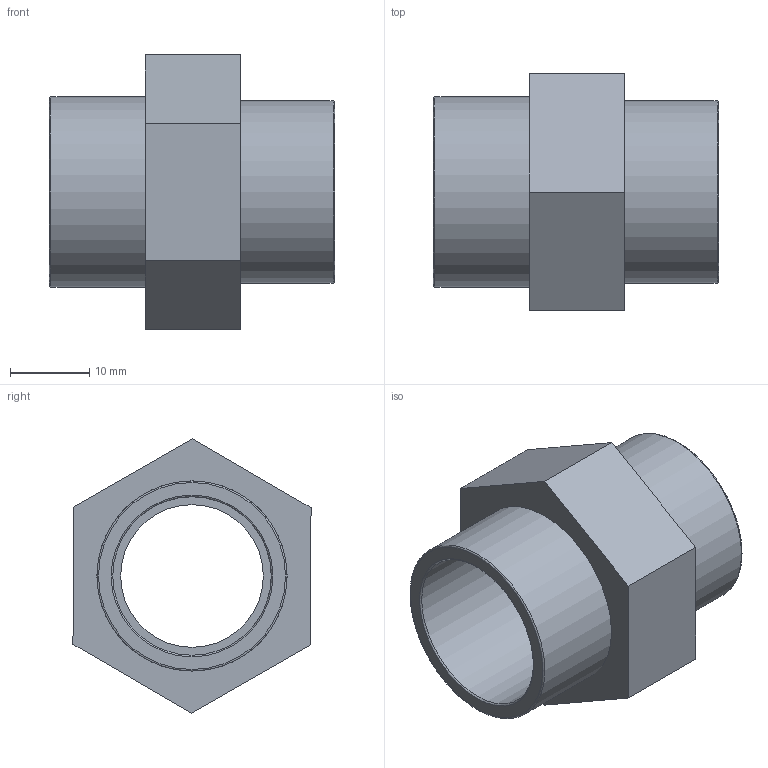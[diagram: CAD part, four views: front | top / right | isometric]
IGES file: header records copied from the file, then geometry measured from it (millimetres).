
Global section: file name: 050102020005.ipt; native system: Autodesk Inventor 2015; preprocessor: unknown; author: KIM; date: 20171207.164054; units: millimetre
Bounding box: 36 x 30.05 x 34.64 mm (x, y, z)
Volume: 9344.3 mm3; surface area: 6216 mm2
Topology: 1 solids, 1 shells, 21 faces, 55 edges, 40 vertices
Faces by surface type: plane 12, revolution 7, cylinder 2
Full cylindrical faces by diameter (mm): 23 x1, 24 x1
